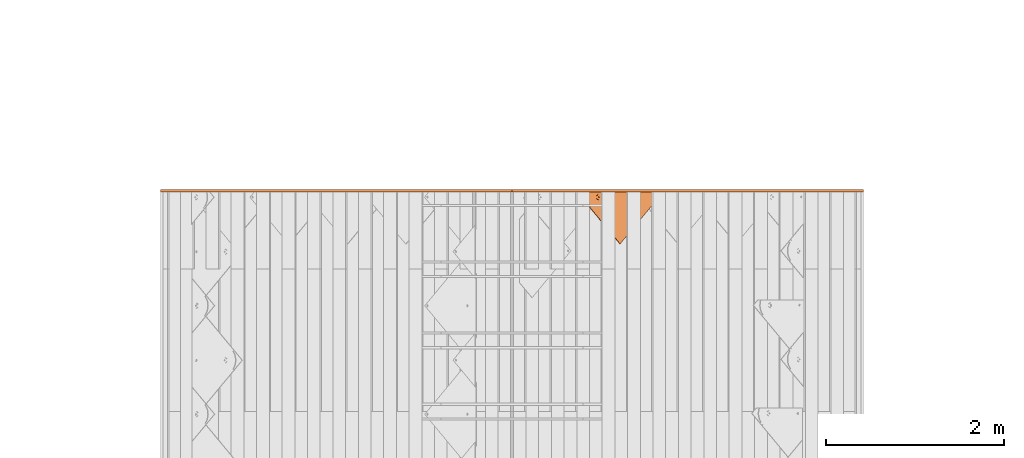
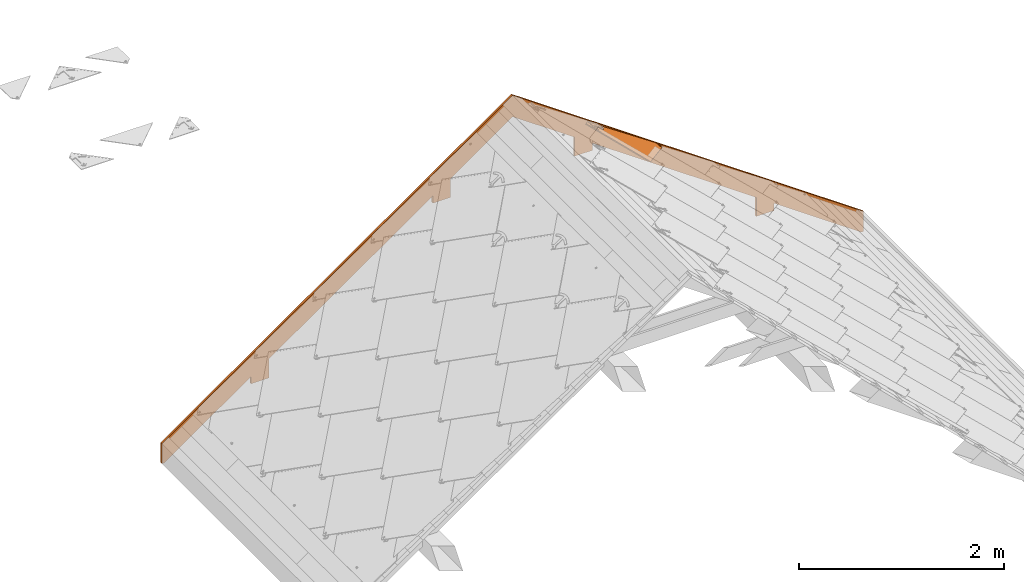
# One storey, part 87 of 133: 2 proxies, 1 element without a shape of its own.
"""IFC2X3 building model written with IfcOpenShell, lengths in millimetres."""

from ifc_helpers import new_model, entity, si_unit, converted_unit, derived_unit, direction, frame, origin, place, context, subcontext, project, spatial, polyline, outline, extrude, faceted_brep, source, transform, mapped, material, material_list, type_object, type_shapes, element, aggregate, save


model = new_model("IFC2X3")

# Units and contexts
model_context = context("Model", 3, precision=0.01, world=origin(), true_north=direction((6.12303176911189e-17, 1.0)))
body_context = subcontext(model_context, "Body", "Model", "MODEL_VIEW")
ifc_project = project(units=[si_unit("LENGTHUNIT", "METRE", prefix="MILLI"), si_unit("AREAUNIT", "SQUARE_METRE"), si_unit("VOLUMEUNIT", "CUBIC_METRE"), converted_unit("PLANEANGLEUNIT", "DEGREE", entity("IfcRatioMeasure", 0.0174532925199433), si_unit("PLANEANGLEUNIT", "RADIAN"), dimensions=[0, 0, 0, 0, 0, 0, 0]), si_unit("MASSUNIT", "GRAM", prefix="KILO"), derived_unit("MASSDENSITYUNIT", [(si_unit("MASSUNIT", "GRAM", prefix="KILO"), 1), (si_unit("LENGTHUNIT", "METRE"), -3)]), si_unit("TIMEUNIT", "SECOND"), si_unit("FREQUENCYUNIT", "HERTZ"), si_unit("THERMODYNAMICTEMPERATUREUNIT", "DEGREE_CELSIUS"), derived_unit("THERMALTRANSMITTANCEUNIT", [(si_unit("MASSUNIT", "GRAM", prefix="KILO"), 1), (si_unit("THERMODYNAMICTEMPERATUREUNIT", "KELVIN"), -1), (si_unit("TIMEUNIT", "SECOND"), -3)]), derived_unit("VOLUMETRICFLOWRATEUNIT", [(si_unit("LENGTHUNIT", "METRE"), 3), (si_unit("TIMEUNIT", "SECOND"), -1)]), si_unit("ELECTRICCURRENTUNIT", "AMPERE"), si_unit("ELECTRICVOLTAGEUNIT", "VOLT"), si_unit("POWERUNIT", "WATT"), si_unit("FORCEUNIT", "NEWTON", prefix="KILO"), si_unit("ILLUMINANCEUNIT", "LUX"), si_unit("LUMINOUSFLUXUNIT", "LUMEN"), si_unit("LUMINOUSINTENSITYUNIT", "CANDELA"), derived_unit("USERDEFINED", [(si_unit("MASSUNIT", "GRAM", prefix="KILO"), -1), (si_unit("LENGTHUNIT", "METRE"), -2), (si_unit("TIMEUNIT", "SECOND"), 3), (si_unit("LUMINOUSFLUXUNIT", "LUMEN"), 1)]), derived_unit("LINEARVELOCITYUNIT", [(si_unit("LENGTHUNIT", "METRE"), 1), (si_unit("TIMEUNIT", "SECOND"), -1)]), si_unit("PRESSUREUNIT", "PASCAL"), derived_unit("USERDEFINED", [(si_unit("LENGTHUNIT", "METRE"), -2), (si_unit("MASSUNIT", "GRAM", prefix="KILO"), 1), (si_unit("TIMEUNIT", "SECOND"), -2)])], contexts=[model_context])

# Site, building, storey
site_placement = place(None, origin())
site = spatial("IfcSite", under=ifc_project, at=site_placement, Name="Default", CompositionType="ELEMENT")
building_placement = place(site_placement, origin())
building = spatial("IfcBuilding", under=site, at=building_placement, CompositionType="ELEMENT")
storey_placement = place(building_placement, origin())
storey = spatial("IfcBuildingStorey", under=building, at=storey_placement, Name="Level 1", CompositionType="ELEMENT", Elevation=0.0)

# Proxy
ifc_material_1 = material(Name="Rubber - Sunstyle - Black")
ifc_material_2 = material(Name="Glass - Sunstyle - Tainted Black")
ifc_material_list_1 = material_list([ifc_material_1, ifc_material_2])
ifc_material_list_2 = material_list([ifc_material_1, ifc_material_2])
building_element_proxy_type_1 = type_object("IfcBuildingElementProxyType", Name="Shingle Right - Black", PredefinedType="NOTDEFINED", material=ifc_material_list_2)
shared_shape_1 = source(origin(), body_context, "Body", "Brep", [
    faceted_brep([(526.70519509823, 41.3127833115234, 3.87722628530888), (520.930992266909, 37.9795131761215, 3.9330502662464), (520.930992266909, 38.34782226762, 25.9249196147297), (526.70519509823, 41.6810924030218, 25.8690956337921), (520.930992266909, 31.3129729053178, 4.0446982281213), (520.930992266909, 31.6812819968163, 26.0365675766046), (526.70519509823, 27.979702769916, 4.1005222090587), (526.70519509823, 28.3480118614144, 26.092391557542), (532.47939792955, 31.3129729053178, 4.04469822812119), (532.47939792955, 31.6812819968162, 26.0365675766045), (532.47939792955, 37.9795131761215, 3.93305026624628), (532.47939792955, 38.3478222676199, 25.9249196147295), (518.101490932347, 26.4120542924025, 26.1248140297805), (526.70519509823, 22.8487830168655, 26.1844899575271), (514.537719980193, 35.0145521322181, 25.9807435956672), (518.101490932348, 43.6170499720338, 25.8366731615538), (526.70519509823, 47.1803212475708, 25.776997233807), (535.308899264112, 43.6170499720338, 25.8366731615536), (538.872670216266, 35.0145521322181, 25.9807435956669), (535.308899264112, 26.4120542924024, 26.1248140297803), (515.380950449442, 37.3096292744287, 28.2935855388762), (516.94872054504, 35.0855670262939, 30.2210682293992), (526.70519509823, 42.3986422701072, 30.8537686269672), (526.70519509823, 43.6391399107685, 30.2734219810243), (526.70519509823, 45.7966907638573, 29.2640469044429), (526.70519509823, 23.4048270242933, 27.4595479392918), (526.70519509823, 24.3484036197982, 29.6232523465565), (526.70519509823, 27.7977793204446, 31.0982967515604), (526.70519509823, 46.6672851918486, 27.0699596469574), (520.381949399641, 31.4479950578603, 31.0371647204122), (520.381949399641, 38.7484265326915, 30.9149006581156), (538.029439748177, 32.7982090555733, 28.3691406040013), (536.554075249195, 34.0111605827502, 30.1422000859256), (533.028440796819, 38.7484265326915, 30.9149006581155), (533.028440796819, 31.4479950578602, 31.0371647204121), (520.381949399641, 31.5820235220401, 39.0400528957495), (526.70519509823, 27.9318077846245, 39.1011849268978), (526.70519509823, 35.2322392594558, 38.9789208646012), (520.381949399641, 38.8824549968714, 38.9177888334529), (533.028440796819, 31.5820235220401, 39.0400528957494), (533.028440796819, 38.8824549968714, 38.9177888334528), (526.70519509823, 42.532670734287, 38.8566568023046), (526.70519509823, 34.6462430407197, 3.98887424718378)], [[[0, 1, 2, 3]], [[1, 4, 5, 2]], [[4, 6, 7, 5]], [[6, 8, 9, 7]], [[8, 10, 11, 9]], [[10, 0, 3, 11]], [[12, 7, 13]], [[7, 12, 5]], [[14, 5, 12]], [[5, 14, 2]], [[15, 2, 14]], [[3, 2, 15]], [[15, 16, 3]], [[16, 17, 3]], [[11, 3, 17]], [[11, 17, 18]], [[9, 11, 18]], [[18, 19, 9]], [[7, 9, 19]], [[19, 13, 7]], [[20, 14, 12]], [[21, 22, 23, 24]], [[24, 20, 21]], [[25, 20, 12]], [[26, 27, 21]], [[15, 14, 20]], [[12, 13, 25]], [[20, 28, 15]], [[28, 20, 24]], [[21, 27, 29]], [[21, 29, 30]], [[26, 21, 20]], [[20, 25, 26]], [[15, 28, 16]], [[21, 30, 22]], [[31, 18, 17]], [[28, 31, 17]], [[32, 27, 26]], [[26, 31, 32]], [[26, 25, 31]], [[25, 19, 31]], [[17, 16, 28]], [[31, 19, 18]], [[24, 31, 28]], [[33, 34, 32]], [[23, 22, 33]], [[24, 32, 31]], [[27, 32, 34]], [[32, 23, 33]], [[19, 25, 13]], [[32, 24, 23]], [[35, 36, 37]], [[37, 38, 35]], [[36, 39, 37]], [[40, 37, 39]], [[37, 40, 41]], [[37, 41, 38]], [[42, 6, 4]], [[4, 1, 42]], [[1, 0, 42]], [[42, 8, 6]], [[0, 10, 42]], [[8, 42, 10]], [[22, 30, 38, 41]], [[30, 29, 35, 38]], [[29, 27, 36, 35]], [[27, 34, 39, 36]], [[34, 33, 40, 39]], [[33, 22, 41, 40]]]),
    faceted_brep([(526.70519509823, 811.19100538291, 21.4210230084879), (526.70519509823, 815.690374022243, 21.3456697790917), (518.101490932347, 814.754276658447, 21.3613470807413), (535.308899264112, 814.754276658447, 21.3613470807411), (533.345423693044, 819.523574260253, 21.2814732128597), (538.872670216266, 823.356774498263, 21.2172766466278), (533.345423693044, 827.189974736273, 21.1530800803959), (535.308899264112, 831.959272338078, 21.0732062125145), (526.70519509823, 831.023174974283, 21.0888835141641), (526.70519509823, 835.522543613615, 21.0135302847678), (518.101490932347, 831.959272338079, 21.0732062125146), (520.064966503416, 827.189974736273, 21.1530800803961), (514.537719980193, 823.356774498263, 21.217276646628), (520.064966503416, 819.523574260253, 21.2814732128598), (520.064966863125, 826.922051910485, 5.15532344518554), (526.70519509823, 830.755251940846, 5.09112688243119), (520.064966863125, 819.255651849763, 5.2837165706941), (526.70519509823, 815.422451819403, 5.34791313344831), (533.345423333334, 819.255651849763, 5.28371657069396), (533.345423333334, 826.922051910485, 5.1553234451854), (518.101490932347, 814.486354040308, 5.36359044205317), (526.70519509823, 810.923082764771, 5.4232663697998), (514.537719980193, 823.088851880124, 5.21952000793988), (518.101490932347, 831.69134971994, 5.07544957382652), (526.70519509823, 835.254620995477, 5.01577364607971), (535.308899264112, 831.69134971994, 5.07544957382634), (538.872670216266, 823.088851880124, 5.21952000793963), (535.308899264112, 814.486354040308, 5.36359044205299)], [[[0, 1, 2]], [[1, 0, 3]], [[3, 4, 1]], [[4, 3, 5]], [[6, 4, 5]], [[5, 7, 6]], [[7, 8, 6]], [[8, 7, 9]], [[8, 9, 10]], [[10, 11, 8]], [[12, 11, 10]], [[2, 13, 12]], [[12, 13, 11]], [[13, 2, 1]], [[8, 11, 14, 15]], [[11, 13, 16, 14]], [[13, 1, 17, 16]], [[1, 4, 18, 17]], [[4, 6, 19, 18]], [[6, 8, 15, 19]], [[20, 17, 21]], [[17, 20, 16]], [[22, 16, 20]], [[14, 16, 22]], [[23, 14, 22]], [[15, 14, 23]], [[23, 24, 15]], [[24, 25, 15]], [[19, 15, 25]], [[19, 25, 26]], [[26, 18, 19]], [[26, 27, 18]], [[17, 18, 27]], [[27, 21, 17]], [[24, 23, 10, 9]], [[10, 23, 22, 12]], [[20, 21, 0, 2]], [[20, 2, 12, 22]], [[21, 27, 3, 0]], [[3, 27, 26, 5]], [[25, 24, 9, 7]], [[25, 7, 5, 26]]]),
    faceted_brep([(578.30986553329, 967.15023469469, 8.79467739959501), (586.794551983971, 975.634921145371, 8.65258001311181), (586.794551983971, 975.660038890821, 10.1523696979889), (578.30986553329, 967.17535244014, 10.294467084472), (517.891471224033, 1027.55168765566, 7.7831033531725), (8.48468645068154, 518.287740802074, 16.3120073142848), (0.0, 526.772427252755, 16.1699099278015), (517.891471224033, 1044.51868144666, 7.49894842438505), (517.891471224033, 1044.54379919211, 8.99873810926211), (0.0, 526.797544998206, 17.6696996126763), (8.4846864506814, 518.312858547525, 17.8117969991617), (517.891471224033, 1027.57680540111, 9.28289303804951)], [[[0, 1, 2, 3]], [[1, 0, 4, 5, 6, 7]], [[2, 1, 7, 8]], [[3, 2, 8, 9, 10, 11]], [[0, 3, 11, 4]], [[5, 10, 9, 6]], [[8, 7, 6, 9]], [[4, 11, 10, 5]]]),
    faceted_brep([(586.794551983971, 975.634921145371, 8.65258001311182), (517.891471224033, 1044.51868144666, 7.49894842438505), (523.812678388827, 834.561085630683, 11.0152157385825), (526.918506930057, 834.969918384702, 11.0083688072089), (530.024335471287, 834.561085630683, 11.0152157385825), (532.918506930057, 833.362448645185, 11.0352899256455), (535.403788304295, 831.455692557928, 11.0672233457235), (537.31081177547, 828.970759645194, 11.1088397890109), (538.509616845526, 826.076993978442, 11.1573031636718), (538.918506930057, 822.971600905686, 11.2093107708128), (538.509616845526, 819.86620783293, 11.2613183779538), (586.79455198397, 60.1087646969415, 23.9853651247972), (520.918506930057, 833.362448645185, 11.0352899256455), (518.433225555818, 831.455692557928, 11.0672233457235), (516.526202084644, 828.970759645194, 11.1088397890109), (515.327397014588, 826.076993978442, 11.1573031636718), (0.0, 526.772427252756, 16.1699099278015), (514.918506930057, 822.971600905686, 11.2093107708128), (515.327397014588, 819.86620783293, 11.2613183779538), (516.526202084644, 816.972442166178, 11.3097817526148), (518.433225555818, 814.487509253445, 11.3513981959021), (520.918506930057, 812.580753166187, 11.3833316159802), (523.812678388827, 811.382116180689, 11.4034058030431), (524.667140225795, 42.642731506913, 24.2778777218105), (522.737692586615, 41.8436401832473, 24.2912605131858), (521.080838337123, 40.572469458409, 24.3125494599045), (519.80948935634, 38.9158475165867, 24.3402937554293), (519.010285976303, 36.9866704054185, 24.37260267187), (518.737692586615, 34.9164083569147, 24.407274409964), (519.010285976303, 32.8461463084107, 24.441946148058), (526.794551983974, 0.125588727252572, 24.989934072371), (519.80948935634, 30.9169691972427, 24.4742550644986), (533.665895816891, 30.9169691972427, 24.4742550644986), (532.394546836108, 29.2603472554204, 24.5019993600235), (530.737692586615, 27.9891765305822, 24.5232883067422), (528.808244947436, 27.1900852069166, 24.5366710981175), (526.737692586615, 26.9175300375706, 24.5412357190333), (524.667140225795, 27.1900852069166, 24.5366710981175), (522.737692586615, 27.9891765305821, 24.5232883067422), (521.080838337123, 29.2603472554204, 24.5019993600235), (526.737692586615, 42.9152866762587, 24.2733131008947), (528.808244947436, 42.6427315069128, 24.2778777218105), (530.737692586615, 41.8436401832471, 24.2912605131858), (532.394546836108, 40.572469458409, 24.3125494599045), (533.665895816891, 38.9158475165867, 24.3402937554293), (534.465099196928, 36.9866704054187, 24.37260267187), (534.737692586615, 34.9164083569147, 24.407274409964), (534.465099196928, 32.8461463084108, 24.441946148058), (526.918506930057, 810.97328342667, 11.4102527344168), (537.31081177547, 816.972442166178, 11.3097817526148), (535.403788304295, 814.487509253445, 11.3513981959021), (532.918506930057, 812.580753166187, 11.3833316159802), (530.024335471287, 811.382116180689, 11.4034058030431), (0.0, 526.646838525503, 8.67096150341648), (519.80948935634, 38.790258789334, 16.8413453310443), (519.010285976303, 36.8610816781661, 16.8736542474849), (521.080838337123, 40.4468807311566, 16.8136010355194), (518.737692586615, 34.7908196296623, 16.9083259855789), (519.010285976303, 32.7205575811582, 16.9429977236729), (526.794551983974, 0.0, 17.4909856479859), (522.737692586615, 41.7180514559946, 16.7923120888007), (524.667140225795, 42.5171427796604, 16.7789292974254), (523.812678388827, 811.256527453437, 3.90445737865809), (520.918506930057, 812.455164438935, 3.88438319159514), (518.433225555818, 814.361920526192, 3.85244977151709), (516.526202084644, 816.846853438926, 3.81083332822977), (515.327397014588, 819.740619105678, 3.76236995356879), (514.918506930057, 822.846012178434, 3.71036234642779), (515.327397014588, 825.95140525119, 3.65835473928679), (517.891471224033, 1044.39309271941, 0.0), (516.526202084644, 828.845170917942, 3.60989136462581), (518.433225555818, 831.330103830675, 3.56827492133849), (520.918506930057, 833.236859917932, 3.53634150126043), (523.812678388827, 834.435496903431, 3.51626731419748), (586.794551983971, 975.509332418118, 1.15363158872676), (526.918506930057, 834.84432965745, 3.50942038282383), (530.024335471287, 834.435496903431, 3.51626731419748), (532.918506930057, 833.236859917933, 3.53634150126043), (535.403788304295, 831.330103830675, 3.56827492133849), (537.31081177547, 828.845170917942, 3.60989136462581), (538.509616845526, 825.95140525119, 3.65835473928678), (538.918506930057, 822.846012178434, 3.71036234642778), (538.509616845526, 819.740619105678, 3.76236995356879), (586.79455198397, 59.983175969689, 16.4864167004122), (526.737692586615, 42.7896979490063, 16.7743646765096), (528.808244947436, 42.5171427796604, 16.7789292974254), (530.737692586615, 41.7180514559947, 16.7923120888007), (532.394546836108, 40.4468807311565, 16.8136010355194), (533.665895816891, 30.7913804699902, 16.9753066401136), (534.465099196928, 32.7205575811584, 16.9429977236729), (534.737692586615, 34.7908196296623, 16.9083259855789), (534.465099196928, 36.8610816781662, 16.8736542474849), (533.665895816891, 38.7902587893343, 16.8413453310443), (526.918506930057, 810.847694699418, 3.91130431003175), (530.024335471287, 811.256527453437, 3.90445737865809), (532.918506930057, 812.455164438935, 3.88438319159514), (535.403788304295, 814.361920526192, 3.85244977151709), (537.31081177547, 816.846853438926, 3.81083332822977), (519.80948935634, 30.7913804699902, 16.9753066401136), (521.080838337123, 29.134758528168, 17.0030509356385), (522.737692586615, 27.8635878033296, 17.0243398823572), (524.667140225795, 27.0644964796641, 17.0377226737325), (526.737692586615, 26.7919413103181, 17.0422872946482), (528.808244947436, 27.0644964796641, 17.0377226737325), (530.737692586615, 27.8635878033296, 17.0243398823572), (532.394546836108, 29.1347585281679, 17.0030509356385)], [[[0, 1, 2]], [[0, 2, 3]], [[3, 4, 0]], [[4, 5, 0]], [[0, 5, 6]], [[6, 7, 0]], [[7, 8, 0]], [[8, 9, 0]], [[9, 10, 0]], [[0, 10, 11]], [[2, 1, 12]], [[13, 12, 1]], [[14, 13, 1]], [[14, 1, 15]], [[15, 1, 16]], [[16, 17, 15]], [[17, 16, 18]], [[19, 18, 16]], [[19, 16, 20]], [[21, 20, 16]], [[22, 21, 16]], [[23, 22, 16]], [[24, 23, 16]], [[16, 25, 24]], [[25, 16, 26]], [[26, 16, 27]], [[28, 27, 16]], [[28, 16, 29]], [[29, 16, 30]], [[30, 31, 29]], [[11, 32, 30]], [[30, 32, 33]], [[34, 30, 33]], [[34, 35, 30]], [[36, 30, 35]], [[30, 36, 37]], [[37, 38, 30]], [[38, 39, 30]], [[39, 31, 30]], [[23, 11, 22]], [[11, 23, 40]], [[11, 40, 41]], [[11, 41, 42]], [[42, 43, 11]], [[44, 11, 43]], [[44, 45, 11]], [[45, 46, 11]], [[47, 11, 46]], [[11, 47, 32]], [[22, 11, 48]], [[10, 49, 11]], [[49, 50, 11]], [[50, 51, 11]], [[51, 52, 11]], [[52, 48, 11]], [[53, 54, 55]], [[54, 53, 56]], [[53, 55, 57]], [[57, 58, 53]], [[53, 58, 59]], [[60, 56, 53]], [[61, 60, 53]], [[61, 53, 62]], [[62, 53, 63]], [[53, 64, 63]], [[64, 53, 65]], [[65, 53, 66]], [[66, 53, 67]], [[67, 53, 68]], [[53, 69, 68]], [[70, 68, 69]], [[71, 70, 69]], [[69, 72, 71]], [[73, 72, 69]], [[73, 69, 74]], [[75, 73, 74]], [[75, 74, 76]], [[77, 76, 74]], [[74, 78, 77]], [[79, 78, 74]], [[80, 79, 74]], [[80, 74, 81]], [[81, 74, 82]], [[82, 74, 83]], [[84, 61, 83]], [[83, 85, 84]], [[86, 85, 83]], [[83, 87, 86]], [[59, 88, 83]], [[83, 88, 89]], [[90, 83, 89]], [[90, 91, 83]], [[91, 92, 83]], [[87, 83, 92]], [[62, 83, 61]], [[93, 83, 62]], [[83, 93, 94]], [[94, 95, 83]], [[83, 95, 96]], [[96, 97, 83]], [[97, 82, 83]], [[59, 58, 98]], [[99, 59, 98]], [[99, 100, 59]], [[100, 101, 59]], [[102, 59, 101]], [[59, 102, 103]], [[59, 103, 104]], [[104, 105, 59]], [[105, 88, 59]], [[16, 1, 69, 53]], [[30, 16, 53, 59]], [[11, 30, 59, 83]], [[1, 0, 74, 69]], [[28, 57, 55, 27]], [[27, 55, 54, 26]], [[24, 25, 56, 60]], [[56, 25, 26, 54]], [[23, 24, 60, 61]], [[23, 61, 84, 40]], [[40, 84, 85, 41]], [[41, 85, 86, 42]], [[44, 43, 87, 92]], [[87, 43, 42, 86]], [[45, 44, 92, 91]], [[45, 91, 90, 46]], [[46, 90, 89, 47]], [[47, 89, 88, 32]], [[34, 33, 105, 104]], [[105, 33, 32, 88]], [[35, 34, 104, 103]], [[35, 103, 102, 36]], [[36, 102, 101, 37]], [[37, 101, 100, 38]], [[31, 39, 99, 98]], [[39, 38, 100, 99]], [[58, 29, 31, 98]], [[29, 58, 57, 28]], [[17, 67, 68, 15]], [[15, 68, 70, 14]], [[12, 13, 71, 72]], [[71, 13, 14, 70]], [[2, 12, 72, 73]], [[2, 73, 75, 3]], [[3, 75, 76, 4]], [[4, 76, 77, 5]], [[7, 6, 78, 79]], [[78, 6, 5, 77]], [[8, 7, 79, 80]], [[8, 80, 81, 9]], [[9, 81, 82, 10]], [[10, 82, 97, 49]], [[51, 50, 96, 95]], [[96, 50, 49, 97]], [[52, 51, 95, 94]], [[52, 94, 93, 48]], [[48, 93, 62, 22]], [[22, 62, 63, 21]], [[19, 20, 64, 65]], [[64, 20, 21, 63]], [[18, 19, 65, 66]], [[18, 66, 67, 17]], [[0, 11, 83, 74]]]),
    faceted_brep([(503.195324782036, 841.557074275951, 20.8994526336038), (517.914693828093, 832.008099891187, 21.0593741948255), (507.695869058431, 846.190079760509, 20.8218613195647), (516.007670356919, 829.523166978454, 21.1009906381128), (499.815755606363, 836.052923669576, 20.9916334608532), (514.808865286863, 826.629401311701, 21.1494540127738), (497.720422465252, 829.943523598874, 21.0939507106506), (514.399975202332, 823.524008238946, 21.2014616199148), (497.010547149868, 823.524008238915, 21.2014616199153), (514.808865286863, 820.41861516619, 21.2534692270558), (516.007670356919, 817.524849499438, 21.3019326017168), (517.914693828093, 815.039916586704, 21.3435490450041), (526.399975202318, 794.138700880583, 21.6935924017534), (520.399975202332, 813.133160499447, 21.3754824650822), (523.294146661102, 811.934523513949, 21.3955566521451), (526.399975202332, 811.52569075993, 21.4024035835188), (529.505803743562, 811.934523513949, 21.3955566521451), (532.399975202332, 813.133160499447, 21.3754824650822), (534.885256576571, 815.039916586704, 21.3435490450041), (555.789403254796, 823.524008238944, 21.2014616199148), (536.792280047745, 817.524849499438, 21.3019326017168), (537.991085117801, 820.41861516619, 21.2534692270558), (538.399975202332, 823.524008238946, 21.2014616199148), (555.079527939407, 829.943523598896, 21.0939507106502), (537.991085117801, 826.629401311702, 21.1494540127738), (552.984194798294, 836.052923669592, 20.9916334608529), (536.792280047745, 829.523166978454, 21.1009906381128), (549.604625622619, 841.557074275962, 20.8994526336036), (534.88525657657, 832.008099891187, 21.0593741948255), (545.104081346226, 846.190079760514, 20.8218613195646), (532.399975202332, 833.914855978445, 21.0274407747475), (539.69997520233, 849.728127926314, 20.7626078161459), (529.505803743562, 835.113492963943, 21.0073665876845), (526.399975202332, 835.522325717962, 21.0005196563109), (513.09997520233, 849.728127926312, 20.762607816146), (513.099975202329, 947.789128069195, 19.1203300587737), (539.699975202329, 948.373752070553, 19.1105390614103), (522.252457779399, 973.425526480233, 18.6909841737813), (556.520926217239, 971.308509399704, 18.7264389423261), (565.239246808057, 944.126992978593, 19.1816617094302), (589.568348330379, 961.999667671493, 18.8823388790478), (589.568348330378, 935.274464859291, 19.3299195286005), (488.310294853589, 968.25512753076, 18.7775754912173), (488.729131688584, 942.717602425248, 19.2052654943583), (456.227055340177, 956.030775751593, 18.9823029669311), (465.633151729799, 933.432284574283, 19.3607714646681), (444.534595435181, 920.223666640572, 19.5819829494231), (427.451419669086, 937.304447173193, 19.2959223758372), (520.399975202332, 833.914855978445, 21.0274407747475), (523.294146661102, 835.113492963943, 21.0073665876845), (526.399975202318, 793.971249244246, 11.6949945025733), (526.399975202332, 811.358239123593, 11.4038056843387), (529.505803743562, 811.767071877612, 11.396958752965), (523.294146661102, 811.767071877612, 11.396958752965), (532.399975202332, 812.96570886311, 11.3768845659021), (534.885256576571, 814.872464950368, 11.344951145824), (555.789403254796, 823.356556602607, 11.2028637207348), (520.399975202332, 812.96570886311, 11.3768845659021), (517.914693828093, 814.872464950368, 11.344951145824), (497.010547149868, 823.356556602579, 11.2028637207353), (516.007670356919, 817.357397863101, 11.3033347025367), (514.808865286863, 820.251163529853, 11.2548713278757), (514.399975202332, 823.356556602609, 11.2028637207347), (497.720422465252, 829.776071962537, 11.0953528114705), (514.808865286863, 826.461949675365, 11.1508561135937), (499.815755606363, 835.885472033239, 10.9930355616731), (516.007670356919, 829.355715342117, 11.1023927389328), (503.195324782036, 841.389622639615, 10.9008547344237), (517.914693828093, 831.84064825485, 11.0607762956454), (507.695869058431, 846.022628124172, 10.8232634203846), (520.399975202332, 833.747404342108, 11.0288428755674), (513.09997520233, 849.560676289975, 10.7640099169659), (523.294146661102, 834.946041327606, 11.0087686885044), (526.399975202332, 835.354874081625, 11.0019217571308), (539.69997520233, 849.560676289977, 10.7640099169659), (513.099975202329, 947.621676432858, 9.12173215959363), (539.69997520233, 948.206300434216, 9.11194116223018), (522.252457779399, 973.258074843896, 8.69238627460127), (488.310294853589, 968.087675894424, 8.77897759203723), (488.729131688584, 942.550150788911, 9.20666759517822), (456.227055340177, 955.863324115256, 8.98370506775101), (465.633151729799, 933.264832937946, 9.36217356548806), (444.533467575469, 920.055518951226, 9.58339670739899), (428.044288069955, 936.544210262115, 9.30725215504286), (421.793762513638, 931.184466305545, 9.39701453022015), (415.826529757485, 925.515365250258, 9.49195786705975), (418.207622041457, 893.733364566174, 10.0242272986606), (401.122816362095, 910.815774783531, 9.73813943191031), (427.451419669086, 937.136995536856, 9.29732447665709), (556.520926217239, 971.141057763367, 8.727841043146), (565.239246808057, 943.959541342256, 9.18306381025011), (589.568348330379, 961.832216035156, 8.88374097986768), (589.568348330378, 935.107013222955, 9.33132162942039), (529.505803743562, 834.946041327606, 11.0087686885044), (532.399975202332, 833.747404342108, 11.0288428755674), (545.104081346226, 846.022628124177, 10.8232634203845), (534.88525657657, 831.84064825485, 11.0607762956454), (549.604625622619, 841.389622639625, 10.9008547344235), (536.792280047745, 829.355715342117, 11.1023927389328), (552.984194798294, 835.885472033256, 10.9930355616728), (537.991085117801, 826.461949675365, 11.1508561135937), (555.079527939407, 829.77607196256, 11.0953528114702), (538.399975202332, 823.356556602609, 11.2028637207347), (537.991085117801, 820.251163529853, 11.2548713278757), (536.792280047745, 817.357397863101, 11.3033347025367), (415.826529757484, 925.557228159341, 11.9916073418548), (401.122816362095, 910.857637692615, 12.2377889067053), (418.207622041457, 893.775227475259, 12.5238767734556), (444.534595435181, 920.09807791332, 12.083034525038), (428.042008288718, 936.584216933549, 11.8069327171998), (421.793762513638, 931.226329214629, 11.8966640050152)], [[[0, 1, 2]], [[3, 1, 0]], [[4, 3, 0]], [[5, 3, 4]], [[4, 6, 5]], [[6, 7, 5]], [[7, 6, 8]], [[9, 7, 8]], [[10, 9, 8]], [[10, 8, 11]], [[8, 12, 11]], [[13, 11, 12]], [[13, 12, 14]], [[12, 15, 14]], [[15, 12, 16]], [[16, 12, 17]], [[18, 17, 12]], [[18, 12, 19]], [[19, 20, 18]], [[21, 20, 19]], [[22, 21, 19]], [[19, 23, 22]], [[24, 22, 23]], [[23, 25, 24]], [[25, 26, 24]], [[26, 25, 27]], [[28, 26, 27]], [[27, 29, 28]], [[30, 28, 29]], [[29, 31, 30]], [[30, 31, 32]], [[32, 31, 33]], [[31, 34, 33]], [[35, 34, 31]], [[35, 31, 36]], [[36, 37, 35]], [[36, 38, 37]], [[39, 38, 36]], [[38, 39, 40]], [[41, 40, 39]], [[37, 42, 35]], [[35, 42, 43]], [[43, 42, 44]], [[44, 45, 43]], [[44, 46, 45]], [[46, 44, 47]], [[48, 34, 2]], [[48, 49, 34]], [[34, 49, 33]], [[48, 2, 1]], [[50, 51, 52]], [[51, 50, 53]], [[50, 52, 54]], [[54, 55, 50]], [[50, 55, 56]], [[57, 53, 50]], [[58, 57, 50]], [[58, 50, 59]], [[59, 60, 58]], [[60, 59, 61]], [[61, 59, 62]], [[63, 62, 59]], [[64, 62, 63]], [[63, 65, 64]], [[64, 65, 66]], [[65, 67, 66]], [[68, 66, 67]], [[69, 68, 67]], [[69, 70, 68]], [[70, 69, 71]], [[71, 72, 70]], [[71, 73, 72]], [[74, 73, 71]], [[71, 75, 74]], [[75, 76, 74]], [[76, 75, 77]], [[77, 75, 78]], [[79, 78, 75]], [[80, 78, 79]], [[79, 81, 80]], [[81, 82, 80]], [[82, 83, 80]], [[84, 83, 82]], [[84, 82, 85]], [[82, 86, 85]], [[86, 87, 85]], [[83, 88, 80]], [[76, 77, 89]], [[89, 90, 76]], [[90, 89, 91]], [[91, 92, 90]], [[93, 73, 74]], [[74, 94, 93]], [[94, 74, 95]], [[95, 96, 94]], [[95, 97, 96]], [[96, 97, 98]], [[99, 98, 97]], [[99, 100, 98]], [[101, 100, 99]], [[102, 100, 101]], [[56, 102, 101]], [[103, 102, 56]], [[56, 55, 104]], [[103, 56, 104]], [[34, 35, 75, 71]], [[2, 34, 71, 69]], [[0, 2, 69, 67]], [[67, 65, 4, 0]], [[6, 4, 65, 63]], [[8, 6, 63, 59]], [[12, 8, 59, 50]], [[19, 12, 50, 56]], [[23, 19, 56, 101]], [[25, 23, 101, 99]], [[99, 97, 27, 25]], [[29, 27, 97, 95]], [[31, 29, 95, 74]], [[36, 31, 74, 76]], [[38, 40, 91, 89]], [[37, 38, 89, 77]], [[77, 78, 42, 37]], [[44, 42, 78, 80]], [[47, 44, 80, 88]], [[7, 62, 64, 5]], [[5, 64, 66, 3]], [[48, 1, 68, 70]], [[66, 68, 1, 3]], [[49, 48, 70, 72]], [[73, 33, 49, 72]], [[32, 93, 94, 30]], [[30, 94, 96, 28]], [[24, 26, 98, 100]], [[96, 98, 26, 28]], [[22, 24, 100, 102]], [[32, 33, 73, 93]], [[22, 102, 103, 21]], [[21, 103, 104, 20]], [[17, 18, 55, 54]], [[104, 55, 18, 20]], [[16, 17, 54, 52]], [[51, 15, 16, 52]], [[14, 53, 57, 13]], [[13, 57, 58, 11]], [[9, 10, 60, 61]], [[58, 60, 10, 11]], [[7, 9, 61, 62]], [[14, 15, 51, 53]], [[105, 106, 107, 108, 109, 110]], [[107, 106, 87, 86]], [[108, 107, 82]], [[86, 82, 107]], [[109, 83, 110]], [[110, 83, 84]], [[84, 85, 105, 110]], [[106, 105, 85, 87]], [[46, 47, 109]], [[109, 47, 88]], [[46, 109, 108]], [[83, 109, 88]], [[108, 81, 45, 46]], [[108, 82, 81]], [[79, 75, 35, 43]], [[81, 79, 43, 45]], [[76, 90, 39, 36]], [[92, 41, 39, 90]], [[40, 41, 92, 91]]]),
])
type_shapes(building_element_proxy_type_1, [shared_shape_1])
proxy_1_placement = place(storey_placement, frame((2844.58235205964, 3338.92308984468, 1683.8747007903), z_axis=(0.573576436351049, 0.0, 0.81915204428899), x_axis=(0.0, 1.0, 0.0)))
element("IfcBuildingElementProxy", 1, at=proxy_1_placement, inside=storey, type_object=building_element_proxy_type_1, material=ifc_material_list_1, Name="Roofing_Panels_SunStyle_Tile_Shingle-Right:Shingle Right - Black", ObjectType="Roofing_Panels_SunStyle_Tile_Shingle-Right:Shingle Right - Black", context=body_context, shape_type="MappedRepresentation", body=[
    mapped(shared_shape_1, transform((0.0, 0.0, 0.0), scale=1.0)),
])

# Assembly, proxy
assembly_placement = place(storey_placement, origin())
assembly = element("IfcElementAssembly", 2, at=assembly_placement, inside=storey, Name="Structural Framing Assembly:Roof Construction Assembly", ObjectType="Structural Framing Assembly:Roof Construction Assembly", AssemblyPlace="NOTDEFINED", PredefinedType="USERDEFINED")
ifc_material_3 = material(Name="Steel - Generic - Black Steel")
building_element_proxy_type_2 = type_object("IfcBuildingElementProxyType", Name="Structural Framing 323", PredefinedType="NOTDEFINED", material=ifc_material_3)
shared_shape_2 = source(origin(), body_context, "Body", "SweptSolid", [
    extrude(outline(polyline([(3925.79042238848, -1249.733740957), (3950.79042238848, -1249.733740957), (3950.79042238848, -1010.88054489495), (0.0, 1755.49269074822), (-3950.79042238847, -1010.88054489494), (-3950.79042238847, -1249.73374095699), (-3925.79042238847, -1249.73374095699), (-2945.79042238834, -563.530353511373), (-2945.79042238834, -649.526202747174), (-2745.79042238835, -649.526202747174), (-2745.79042238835, -423.488845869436), (-897.910311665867, 870.410737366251), (-897.910311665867, 784.414888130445), (-697.910311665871, 784.414888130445), (-697.910311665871, 1010.45224500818), (0.0, 1499.13430623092), (697.910311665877, 1010.45224500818), (697.910311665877, 784.414888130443), (897.910311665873, 784.414888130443), (897.910311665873, 870.41073736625), (2745.79042238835, -423.488845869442), (2745.79042238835, -649.52620274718), (2945.79042238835, -649.52620274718), (2945.79042238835, -563.53035351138), (3925.79042238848, -1249.733740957)])), frame((1206.77890726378, 3925.55080214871, 1105.54175956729), z_axis=(0.0, 1.0, 0.0), x_axis=(-1.0, 0.0, 0.0)), (0.0, 0.0, 1.0), 24.9999999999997),
])
type_shapes(building_element_proxy_type_2, [shared_shape_2])
proxy_2_placement = place(assembly_placement, origin())
proxy_2 = element("IfcBuildingElementProxy", 3, at=proxy_2_placement, type_object=building_element_proxy_type_2, material=ifc_material_3, Name="Structural Framing 324:Structural Framing 323", ObjectType="Structural Framing 324:Structural Framing 323", context=body_context, shape_type="MappedRepresentation", body=[
    mapped(shared_shape_2, transform((0.0, 0.0, 0.0), scale=1.0)),
])
aggregate(assembly, [proxy_2])

save(model, "model.ifc")
